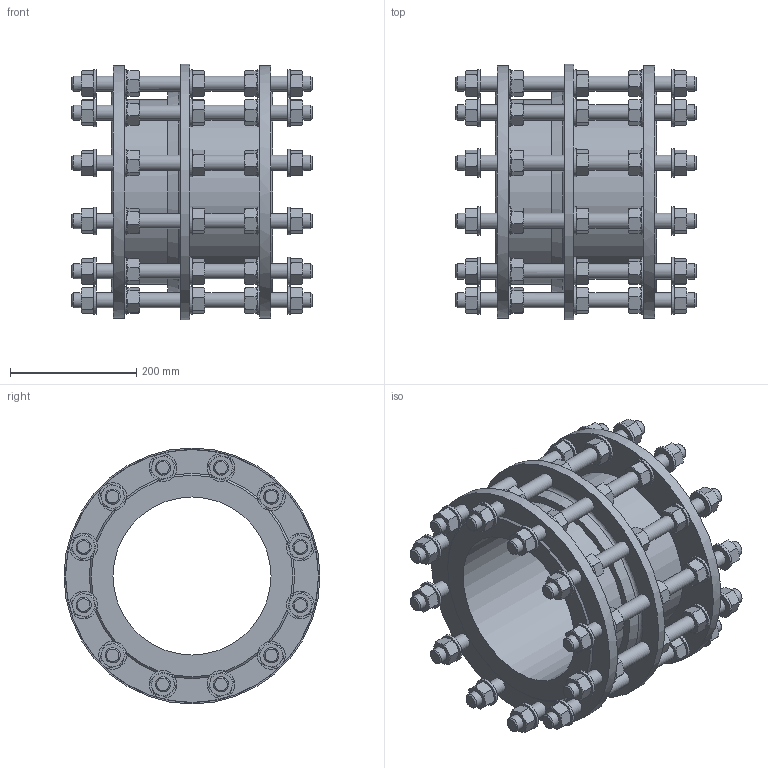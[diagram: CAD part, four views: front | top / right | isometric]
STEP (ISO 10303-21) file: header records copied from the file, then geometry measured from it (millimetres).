
FILE_DESCRIPTION (( 'STEP AP203' ), '1' );
FILE_NAME ('O_265_910_DN250_1XXXXX00_L=255 _REV01.step', '2024-10-11T09:02:15', ( '' ), ( '' ), 'SwSTEP 2.0', 'SolidWorks 2022', '' );
FILE_SCHEMA (( 'CONFIG_CONTROL_DESIGN' ));
Length unit declared in the file: millimetre
Products named in the file (1): O_265_910_DN250_1XXXXX00_L=255 _REV01
Bounding box: 380 x 405 x 405 mm (x, y, z)
Volume: 9354195.4 mm3; surface area: 1260325.2 mm2
Topology: 1 solids, 1 shells, 1464 faces, 3237 edges, 1942 vertices
Faces by surface type: cone 747, plane 576, cylinder 140, torus 1
Full cylindrical faces by diameter (mm): 24 x72, 44 x60, 250 x1, 264 x1, 292 x1, 400 x2, 405 x1
Entity records: 45456 total; most frequent: CARTESIAN_POINT 16622, ORIENTED_EDGE 5922, DIRECTION 5481, EDGE_CURVE 2961, AXIS2_PLACEMENT_3D 2507, EDGE_LOOP 1847, VERTEX_POINT 1832, FACE_OUTER_BOUND 1603
